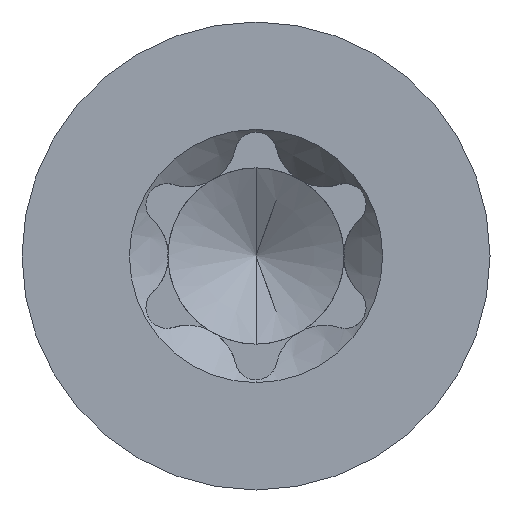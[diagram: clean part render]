
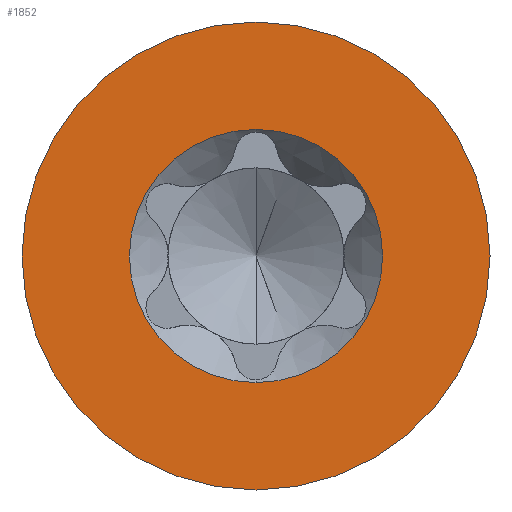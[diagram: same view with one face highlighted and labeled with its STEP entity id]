
A CAD part, front view. The second image highlights one B-rep face of the part: STEP entity #1852.
In plain terms, the highlighted planar face has unit normal (0, -1, 0).
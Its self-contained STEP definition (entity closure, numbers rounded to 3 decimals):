
#16 = VERTEX_POINT ( 'NONE', #1252 ) ;
#175 = CARTESIAN_POINT ( 'NONE',  ( 0., 0., 0. ) ) ;
#204 = CIRCLE ( 'NONE', #2010, 2.3 ) ;
#246 = CIRCLE ( 'NONE', #503, 2.3 ) ;
#252 = CIRCLE ( 'NONE', #1803, 4.25 ) ;
#269 = FACE_BOUND ( 'NONE', #338, .T. ) ;
#333 = DIRECTION ( 'NONE',  ( 0., 0., -1. ) ) ;
#334 = CARTESIAN_POINT ( 'NONE',  ( 0., 0., 0. ) ) ;
#338 = EDGE_LOOP ( 'NONE', ( #498, #505 ) ) ;
#359 = VERTEX_POINT ( 'NONE', #408 ) ;
#408 = CARTESIAN_POINT ( 'NONE',  ( 0., 0., 4.25 ) ) ;
#451 = DIRECTION ( 'NONE',  ( 0., -1., 0. ) ) ;
#482 = CARTESIAN_POINT ( 'NONE',  ( 0., 0., 0. ) ) ;
#489 = DIRECTION ( 'NONE',  ( 0., -1., 0. ) ) ;
#498 = ORIENTED_EDGE ( 'NONE', *, *, #2048, .F. ) ;
#503 = AXIS2_PLACEMENT_3D ( 'NONE', #175, #1281, #333 ) ;
#505 = ORIENTED_EDGE ( 'NONE', *, *, #565, .F. ) ;
#548 = EDGE_CURVE ( 'NONE', #712, #359, #252, .T. ) ;
#565 = EDGE_CURVE ( 'NONE', #16, #843, #204, .T. ) ;
#612 = EDGE_LOOP ( 'NONE', ( #1625, #1270 ) ) ;
#646 = DIRECTION ( 'NONE',  ( 0., 0., -1. ) ) ;
#712 = VERTEX_POINT ( 'NONE', #1342 ) ;
#843 = VERTEX_POINT ( 'NONE', #2018 ) ;
#948 = EDGE_CURVE ( 'NONE', #359, #712, #1441, .T. ) ;
#977 = AXIS2_PLACEMENT_3D ( 'NONE', #1859, #1208, #2012 ) ;
#1021 = AXIS2_PLACEMENT_3D ( 'NONE', #1749, #451, #1406 ) ;
#1208 = DIRECTION ( 'NONE',  ( 0., -1., 0. ) ) ;
#1252 = CARTESIAN_POINT ( 'NONE',  ( 0., 0., 2.3 ) ) ;
#1270 = ORIENTED_EDGE ( 'NONE', *, *, #948, .T. ) ;
#1281 = DIRECTION ( 'NONE',  ( 0., -1., 0. ) ) ;
#1342 = CARTESIAN_POINT ( 'NONE',  ( 0., 0., -4.25 ) ) ;
#1406 = DIRECTION ( 'NONE',  ( 0., 0., -1. ) ) ;
#1441 = CIRCLE ( 'NONE', #1021, 4.25 ) ;
#1448 = DIRECTION ( 'NONE',  ( 0., 0., -1. ) ) ;
#1483 = FACE_OUTER_BOUND ( 'NONE', #612, .T. ) ;
#1610 = DIRECTION ( 'NONE',  ( 0., -1., 0. ) ) ;
#1625 = ORIENTED_EDGE ( 'NONE', *, *, #548, .T. ) ;
#1698 = PLANE ( 'NONE',  #977 ) ;
#1749 = CARTESIAN_POINT ( 'NONE',  ( 0., 0., 0. ) ) ;
#1803 = AXIS2_PLACEMENT_3D ( 'NONE', #482, #1610, #646 ) ;
#1852 = ADVANCED_FACE ( 'NONE', ( #269, #1483 ), #1698, .T. ) ;
#1859 = CARTESIAN_POINT ( 'NONE',  ( 2.3, 0., 0. ) ) ;
#2010 = AXIS2_PLACEMENT_3D ( 'NONE', #334, #489, #1448 ) ;
#2012 = DIRECTION ( 'NONE',  ( 0., 0., -1. ) ) ;
#2018 = CARTESIAN_POINT ( 'NONE',  ( 0., 0., -2.3 ) ) ;
#2048 = EDGE_CURVE ( 'NONE', #843, #16, #246, .T. ) ;
